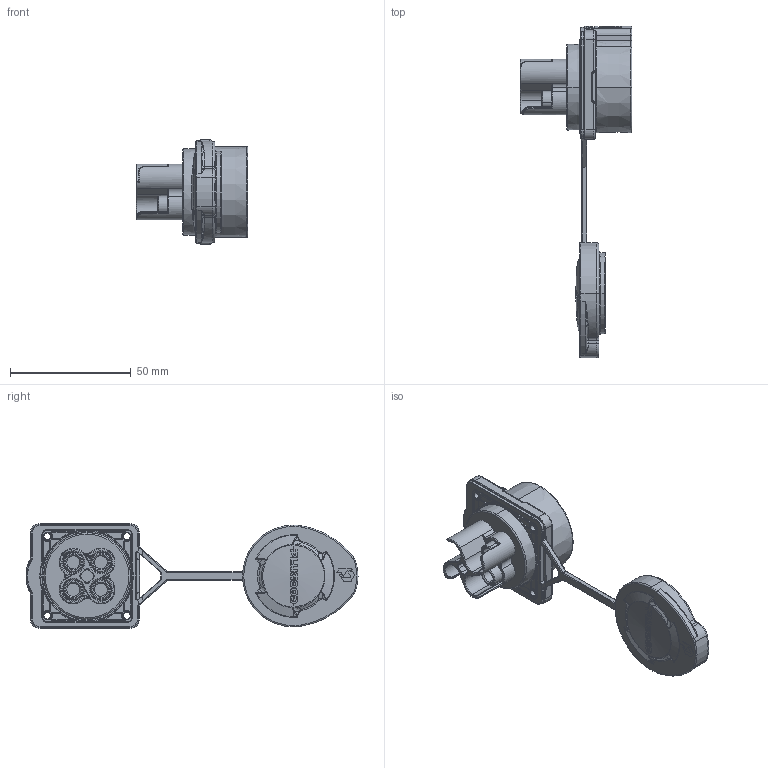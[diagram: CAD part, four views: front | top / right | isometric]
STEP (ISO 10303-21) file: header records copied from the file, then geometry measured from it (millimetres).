
FILE_DESCRIPTION (( 'STEP AP203' ), '1' );
FILE_NAME ('PLG36 4郋侐謂假蚾脣釱.STEP', '2025-09-10T07:34:17', ( '' ), ( '' ), 'SwSTEP 2.0', 'SolidWorks 2024', '' );
FILE_SCHEMA (( 'CONFIG_CONTROL_DESIGN' ));
Length unit declared in the file: millimetre
Products named in the file (1): PLG36 4芯四孔安装插座
Bounding box: 46.2 x 137.62 x 43.5 mm (x, y, z)
Volume: 37152.5 mm3; surface area: 34468.9 mm2
Topology: 11 solids, 12 shells, 2707 faces, 7057 edges, 4289 vertices
Faces by surface type: plane 927, cylinder 684, torus 601, bspline 329, cone 143, sphere 23
Entity records: 104819 total; most frequent: CARTESIAN_POINT 40958, ORIENTED_EDGE 14050, DIRECTION 12845, EDGE_CURVE 7025, AXIS2_PLACEMENT_3D 5236, VERTEX_POINT 4289, EDGE_LOOP 2876, CIRCLE 2857
